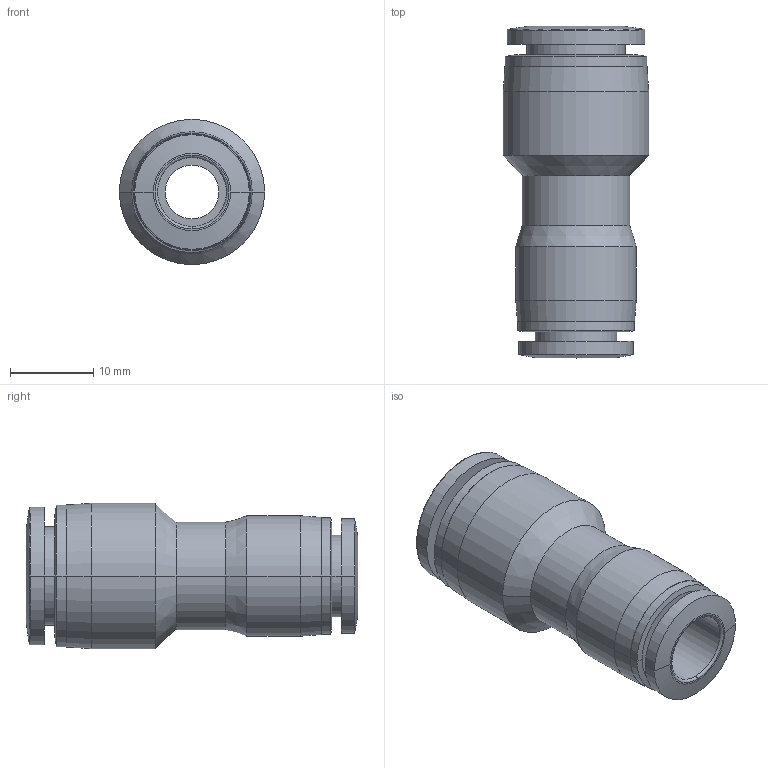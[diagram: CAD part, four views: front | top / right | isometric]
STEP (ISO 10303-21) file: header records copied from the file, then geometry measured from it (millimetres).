
FILE_DESCRIPTION (( 'STEP AP203' ), '1' );
FILE_NAME ('FRH10-08.STEP', '2020-05-12T15:01:27', ( '' ), ( '' ), 'SwSTEP 2.0', 'SolidWorks 2019', '' );
FILE_SCHEMA (( 'CONFIG_CONTROL_DESIGN' ));
Length unit declared in the file: millimetre
Products named in the file (1): FRH10-08
Bounding box: 17.5 x 39.95 x 17.5 mm (x, y, z)
Volume: 4394.5 mm3; surface area: 3709.2 mm2
Topology: 1 solids, 1 shells, 56 faces, 120 edges, 74 vertices
Faces by surface type: cylinder 24, cone 16, plane 10, torus 6
Entity records: 1621 total; most frequent: DIRECTION 314, CARTESIAN_POINT 251, ORIENTED_EDGE 240, AXIS2_PLACEMENT_3D 137, EDGE_CURVE 120, CIRCLE 80, VERTEX_POINT 74, EDGE_LOOP 66
